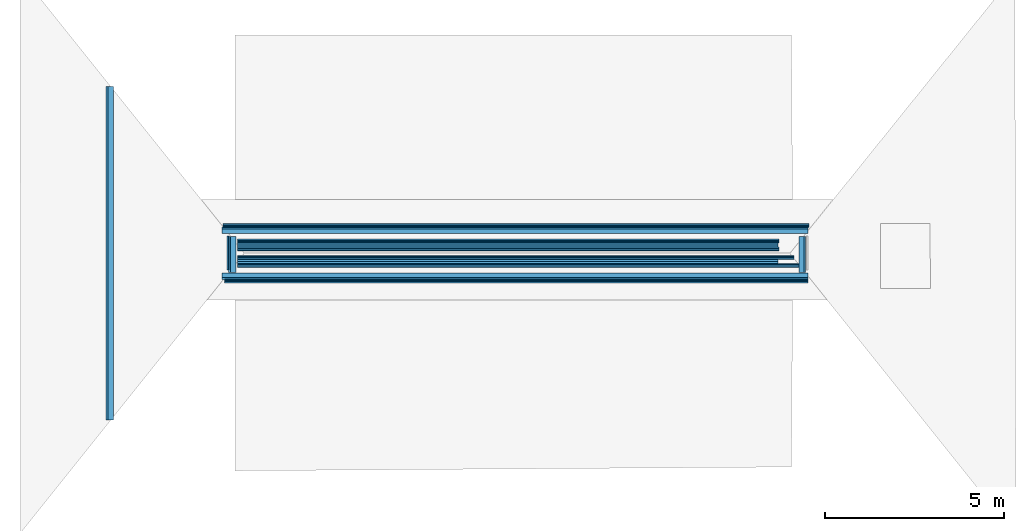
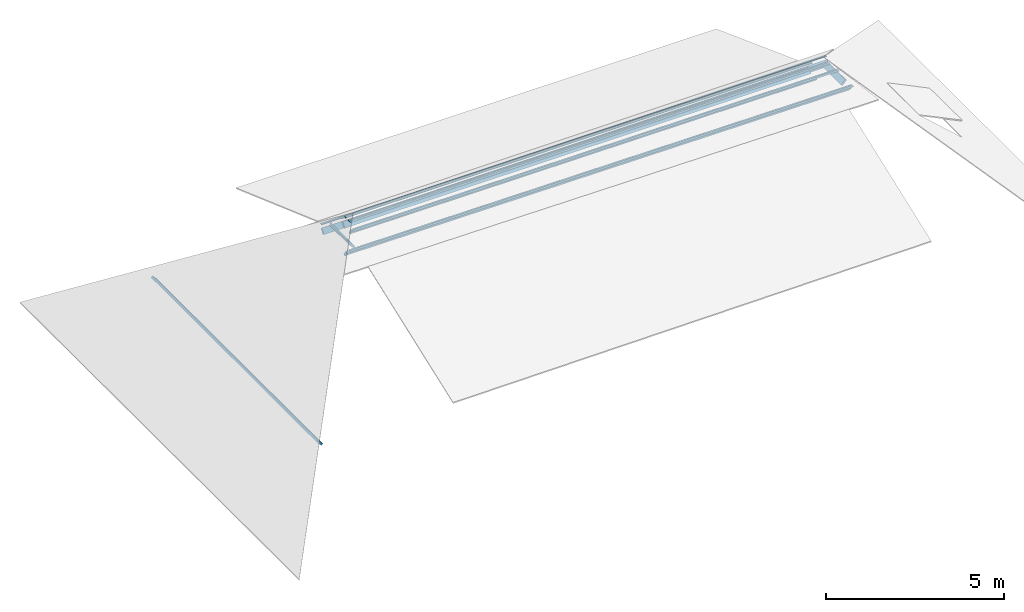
# One storey, part 1 of 3: 14 beams.
"""IFC2X3 building model written with IfcOpenShell, lengths in centimetres."""

from ifc_helpers import new_model, entity, si_unit, converted_unit, direction, frame, frame_2d, origin, place, context, subcontext, project, spatial, polyline, circle_curve, parameter, trimmed, segment, composite_curve, rectangle, outline, extrude, material, type_object, element, save


model = new_model("IFC2X3")

# Units and contexts
model_context = context("Model", 3, precision=0.001, world=frame((0.0, 0.0, 13090.0)), true_north=direction((6.123233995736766e-17, 1.0)))
body_context = subcontext(model_context, "Body", "Model", "MODEL_VIEW")
ifc_project = project(units=[si_unit("LENGTHUNIT", "METRE", prefix="CENTI"), si_unit("AREAUNIT", "SQUARE_METRE"), si_unit("VOLUMEUNIT", "CUBIC_METRE"), converted_unit("PLANEANGLEUNIT", "DEGREE", entity("IfcPlaneAngleMeasure", 0.017453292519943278), si_unit("PLANEANGLEUNIT", "RADIAN"), dimensions=[0, 0, 0, 0, 0, 0, 0])], contexts=[model_context])

# Site, building, storey
site_placement = place(None, origin())
site = spatial("IfcSite", under=ifc_project, at=site_placement, Name="Default", CompositionType="ELEMENT")
building_placement = place(site_placement, origin())
building = spatial("IfcBuilding", under=site, at=building_placement, Name="e 39 logements et 22 maisons relais", CompositionType="ELEMENT")
storey_placement = place(building_placement, frame((0.0, 0.0, 825.0)))
storey = spatial("IfcBuildingStorey", under=building, at=storey_placement, Name="faîtage", CompositionType="ELEMENT", Elevation=825.0000000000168)

# Beams
ifc_material_1 = material(Name="Bois - Bois de construction de dimensions courantes")
beam_type_1 = type_object("IfcBeamType", Name="Poutre - Bois de construction de dimensions courantes:70 220", PredefinedType="BEAM")
beam_1_placement = place(storey_placement, frame((-1286.0797488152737, 514.0076677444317, -289.40547137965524), z_axis=(0.0, 0.0, 1.0), x_axis=(0.0, -1.0, 0.0)))
element("IfcBeam", 1, at=beam_1_placement, inside=storey, type_object=beam_type_1, material=ifc_material_1, Name="Poutre - Bois de construction de dimensions courantes:70 220", ObjectType="Poutre - Bois de construction de dimensions courantes:70 220", context=body_context, shape_type="SweptSolid", body=[
    extrude(rectangle(XDim=22.00000000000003, YDim=7.0000000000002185, at=frame_2d((7.283063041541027e-14, 8.038014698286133e-14), x_axis=(1.0, 0.0))), frame((71.63057672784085, 7.360436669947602, -8.17459308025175), z_axis=(1.0, 0.0, 0.0), x_axis=(0.0, -0.6691306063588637, 0.7431448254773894)), (0.0, 0.0, 1.0), 929.7273318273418),
])
beam_2_placement = place(storey_placement, frame((-944.5009760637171, 514.0076677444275, 16.866062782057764), z_axis=(0.0, 0.0, 1.0), x_axis=(0.0, -1.0, 0.0)))
element("IfcBeam", 2, at=beam_2_placement, inside=storey, type_object=beam_type_1, material=ifc_material_1, Name="Poutre - Bois de construction de dimensions courantes:70 220", ObjectType="Poutre - Bois de construction de dimensions courantes:70 220", context=body_context, shape_type="SweptSolid", body=[
    extrude(rectangle(XDim=21.99999999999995, YDim=7.000000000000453, at=frame_2d((-3.9968028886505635e-14, 3.597122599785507e-14), x_axis=(1.0, 0.0))), frame((489.2494568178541, 7.360436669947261, -8.174593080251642), z_axis=(1.0, 0.0, 0.0), x_axis=(0.0, -0.6691306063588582, 0.7431448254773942)), (0.0, 0.0, 1.0), 101.39577364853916),
])
beam_type_2 = type_object("IfcBeamType", Name="Poutre - Bois de construction de dimensions courantes:70 200", PredefinedType="BEAM")
beam_3_placement = place(storey_placement, frame((-470.7039440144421, 47.67029761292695, 5.550000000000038), z_axis=(-0.0026516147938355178, 0.0, 0.9999964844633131), x_axis=(-0.9999964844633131, 0.0, -0.0026516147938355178)))
element("IfcBeam", 3, at=beam_3_placement, inside=storey, type_object=beam_type_2, material=ifc_material_1, Name="Poutre - Bois de construction de dimensions courantes:70 200", ObjectType="Poutre - Bois de construction de dimensions courantes:70 200", context=body_context, shape_type="SweptSolid", body=[
    extrude(rectangle(XDim=20.00000000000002, YDim=7.000000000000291, at=frame_2d((-4.440892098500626e-14, 3.175237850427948e-14), x_axis=(1.0, 0.0))), frame((-1140.6896584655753, 6.230523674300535, -8.57558014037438), z_axis=(1.0, 0.0, 0.0), x_axis=(0.0, -0.5877852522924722, 0.8090169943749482)), (0.0, 0.0, 1.0), 1635.3712709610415),
])
beam_4_placement = place(storey_placement, frame((-470.7039440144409, 3.2041599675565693, 37.97000000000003), z_axis=(-0.00037451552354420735, 0.0, 0.999999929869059), x_axis=(-0.999999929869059, 0.0, -0.00037451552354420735)))
element("IfcBeam", 4, at=beam_4_placement, inside=storey, type_object=beam_type_2, material=ifc_material_1, Name="Poutre - Bois de construction de dimensions courantes:70 200", ObjectType="Poutre - Bois de construction de dimensions courantes:70 200", context=body_context, shape_type="SweptSolid", body=[
    extrude(rectangle(XDim=19.999999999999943, YDim=7.000000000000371, at=frame_2d((4.529709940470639e-14, -3.1530333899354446e-14), x_axis=(1.0, 0.0))), frame((-1056.3940368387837, 5.877852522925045, -8.090169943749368), z_axis=(1.0, 0.0, 0.0), x_axis=(0.0, -0.5877852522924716, 0.8090169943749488)), (0.0, 0.0, 1.0), 1508.7195752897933),
])
beam_5_placement = place(storey_placement, frame((-470.70394401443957, -94.49332730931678, 6.79999999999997), z_axis=(0.002475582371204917, 0.0, 0.9999969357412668), x_axis=(-0.9999969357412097, -3.379716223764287e-07, 0.0024755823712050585)))
element("IfcBeam", 5, at=beam_5_placement, inside=storey, type_object=beam_type_2, material=ifc_material_1, Name="Poutre - Bois de construction de dimensions courantes:70 200", ObjectType="Poutre - Bois de construction de dimensions courantes:70 200", context=body_context, shape_type="SweptSolid", body=[
    extrude(rectangle(XDim=19.99999999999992, YDim=7.0000000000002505, at=frame_2d((3.774758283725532e-14, -3.9968028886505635e-14), x_axis=(0.0, 1.0))), frame((-1140.6870016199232, -8.030107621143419, -10.852067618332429), z_axis=(1.0, 0.0, 0.0), x_axis=(0.0, -0.8038568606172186, 0.5948227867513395)), (0.0, 0.0, 1.0), 1635.3685641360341),
])
beam_6_placement = place(storey_placement, frame((-470.70394401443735, -47.83352855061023, 37.54000000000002), z_axis=(0.0008724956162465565, 0.0, 0.9999996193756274), x_axis=(-0.9999996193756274, 0.0, 0.0008724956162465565)))
element("IfcBeam", 6, at=beam_6_placement, inside=storey, type_object=beam_type_2, material=ifc_material_1, Name="Poutre - Bois de construction de dimensions courantes:70 200", ObjectType="Poutre - Bois de construction de dimensions courantes:70 200", context=body_context, shape_type="SweptSolid", body=[
    extrude(rectangle(XDim=20.000000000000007, YDim=7.000000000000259, at=frame_2d((2.930988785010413e-14, -4.618527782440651e-14), x_axis=(0.0, 1.0))), frame((-1056.3940024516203, -5.877852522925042, -8.090169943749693), z_axis=(1.0, 0.0, 0.0), x_axis=(0.0, -0.8090169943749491, 0.5877852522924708)), (0.0, 0.0, 1.0), 1508.7195752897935),
])
beam_7_placement = place(storey_placement, frame((660.5394430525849, 514.0076677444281, 16.862015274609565), z_axis=(0.0, 0.0, 1.0), x_axis=(0.0, -1.0, 0.0)))
element("IfcBeam", 7, at=beam_7_placement, inside=storey, type_object=beam_type_2, material=ifc_material_1, Name="Poutre - Bois de construction de dimensions courantes:70 200", ObjectType="Poutre - Bois de construction de dimensions courantes:70 200", context=body_context, shape_type="SweptSolid", body=[
    extrude(rectangle(XDim=19.99999999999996, YDim=7.00000000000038, at=frame_2d((-6.861178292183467e-14, 1.5720758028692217e-13), x_axis=(0.0, 1.0))), frame((489.2494568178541, -6.691306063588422, -7.4314482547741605), z_axis=(1.0, 0.0, 0.0), x_axis=(0.0, -0.7431448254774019, 0.6691306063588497)), (0.0, 0.0, 1.0), 101.39577364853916),
])
ifc_material_2 = material(Name="neuf")
beam_type_3 = type_object("IfcBeamType", Name="panne z:panne z", PredefinedType="BEAM")
beam_8_placement = place(storey_placement, frame((-570.9302602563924, 56.96715256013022, 15.195050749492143), z_axis=(-0.0022573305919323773, 0.0, 0.9999974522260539), x_axis=(-0.9999974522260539, 0.0, -0.0022573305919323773)))
element("IfcBeam", 8, at=beam_8_placement, inside=storey, type_object=beam_type_3, material=ifc_material_2, Name="panne z:panne z", ObjectType="panne z:panne z", context=body_context, shape_type="SweptSolid", body=[
    extrude(outline(composite_curve([segment(trimmed(circle_curve(frame_2d((-0.3000000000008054, 2.6000000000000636), x_axis=(1.0, 0.0)), 0.3999999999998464), [parameter(0.0)], [parameter(90.0000000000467)], True, "PARAMETER"), True, "CONTINUOUS"), segment(polyline([(-0.3000000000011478, 3.0), (-4.600000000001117, 3.0)]), True, "CONTINUOUS"), segment(trimmed(circle_curve(frame_2d((-4.600000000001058, 2.5999999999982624), x_axis=(0.0, 1.0)), 0.3999999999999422), [parameter(0.0)], [parameter(90.00000000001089)], True, "PARAMETER"), True, "CONTINUOUS"), segment(polyline([(-5.0, 2.599999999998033), (-5.0, 1.0)]), True, "CONTINUOUS"), segment(polyline([(-5.0, 1.0), (-4.800000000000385, 1.0)]), True, "CONTINUOUS"), segment(polyline([(-4.800000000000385, 1.0), (-4.800000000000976, 2.599999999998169)]), True, "CONTINUOUS"), segment(trimmed(circle_curve(frame_2d((-4.600000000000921, 2.599999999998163), x_axis=(-1.0, 0.0)), 0.20000000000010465), [parameter(270.00000000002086)], [parameter(0.0)], True, "PARAMETER"), False, "CONTINUOUS"), segment(polyline([(-4.600000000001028, 2.799999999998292), (-0.3000000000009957, 2.7999999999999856)]), True, "CONTINUOUS"), segment(trimmed(circle_curve(frame_2d((-0.3000000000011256, 2.599999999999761), x_axis=(0.0, 1.0)), 0.2000000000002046), [parameter(270.0000000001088)], [parameter(0.0)], True, "PARAMETER"), False, "CONTINUOUS"), segment(polyline([(-0.1000000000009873, 2.5999999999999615), (-0.09999999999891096, -2.599999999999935)]), True, "CONTINUOUS"), segment(trimmed(circle_curve(frame_2d((0.3000000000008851, -2.599999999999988), x_axis=(-1.0, 0.0)), 0.399999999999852), [parameter(0.0)], [parameter(90.00000000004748)], True, "PARAMETER"), True, "CONTINUOUS"), segment(polyline([(0.30000000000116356, -3.0), (4.600000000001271, -3.0)]), True, "CONTINUOUS"), segment(trimmed(circle_curve(frame_2d((4.600000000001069, -2.5999999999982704), x_axis=(0.0, -1.0)), 0.3999999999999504), [parameter(0.0)], [parameter(90.0000000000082)], True, "PARAMETER"), True, "CONTINUOUS"), segment(polyline([(5.0, -2.5999999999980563), (5.0, -1.0)]), True, "CONTINUOUS"), segment(polyline([(5.0, -1.0), (4.800000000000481, -1.0)]), True, "CONTINUOUS"), segment(polyline([(4.800000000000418, -1.0), (4.800000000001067, -2.5999999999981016)]), True, "CONTINUOUS"), segment(trimmed(circle_curve(frame_2d((4.600000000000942, -2.5999999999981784), x_axis=(1.0, 0.0)), 0.2000000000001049), [parameter(270.0000000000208)], [parameter(0.0)], True, "PARAMETER"), False, "CONTINUOUS"), segment(polyline([(4.600000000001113, -2.79999999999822), (0.3000000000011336, -2.799999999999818)]), True, "CONTINUOUS"), segment(trimmed(circle_curve(frame_2d((0.3000000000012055, -2.5999999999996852), x_axis=(0.0, -1.0)), 0.20000000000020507), [parameter(270.0000000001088)], [parameter(0.0)], True, "PARAMETER"), False, "CONTINUOUS"), segment(polyline([(0.10000000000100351, -2.5999999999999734), (0.09999999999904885, 2.6000000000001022)]), True, "CONTINUOUS")], self_intersect=False)), frame((-1243.6018902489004, 2.1644803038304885, -2.979151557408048), z_axis=(1.0, 0.0, 0.0), x_axis=(0.0, 0.8090169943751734, 0.5877852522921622)), (0.0, 0.0, 1.0), 1635.4388450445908),
])
beam_9_placement = place(storey_placement, frame((-570.9302602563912, 12.911788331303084, 46.62000000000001), z_axis=(-0.0005828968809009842, 0.0, 0.9999998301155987), x_axis=(-0.9999998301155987, 0.0, -0.0005828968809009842)))
element("IfcBeam", 9, at=beam_9_placement, inside=storey, type_object=beam_type_3, material=ifc_material_2, Name="panne z:panne z", ObjectType="panne z:panne z", context=body_context, shape_type="SweptSolid", body=[
    extrude(outline(composite_curve([segment(trimmed(circle_curve(frame_2d((-0.2999999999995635, 2.6000000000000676), x_axis=(1.0, 0.0)), 0.3999999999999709), [parameter(0.0)], [parameter(89.99999999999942)], True, "PARAMETER"), True, "CONTINUOUS"), segment(polyline([(-0.29999999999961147, 3.0), (-4.599999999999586, 3.0)]), True, "CONTINUOUS"), segment(trimmed(circle_curve(frame_2d((-4.599999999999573, 2.6000000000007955), x_axis=(0.0, 1.0)), 0.39999999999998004), [parameter(0.0)], [parameter(90.00000000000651)], True, "PARAMETER"), True, "CONTINUOUS"), segment(polyline([(-5.0, 2.6000000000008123), (-5.0, 1.0)]), True, "CONTINUOUS"), segment(polyline([(-5.0, 1.0), (-4.799999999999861, 1.0)]), True, "CONTINUOUS"), segment(polyline([(-4.799999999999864, 1.0), (-4.799999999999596, 2.600000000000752)]), True, "CONTINUOUS"), segment(trimmed(circle_curve(frame_2d((-4.599999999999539, 2.6000000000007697), x_axis=(-1.0, 0.0)), 0.2000000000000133), [parameter(270.00000000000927)], [parameter(0.0)], True, "PARAMETER"), False, "CONTINUOUS"), segment(polyline([(-4.599999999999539, 2.8000000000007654), (-0.29999999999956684, 2.800000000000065)]), True, "CONTINUOUS"), segment(trimmed(circle_curve(frame_2d((-0.2999999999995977, 2.6000000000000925), x_axis=(0.0, 1.0)), 0.2000000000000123), [parameter(269.99999999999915)], [parameter(0.0)], True, "PARAMETER"), False, "CONTINUOUS"), segment(polyline([(-0.09999999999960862, 2.6000000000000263), (-0.10000000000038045, -2.5999999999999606)]), True, "CONTINUOUS"), segment(trimmed(circle_curve(frame_2d((0.2999999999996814, -2.599999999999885), x_axis=(-1.0, 0.0)), 0.3999999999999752), [parameter(0.0)], [parameter(89.9999999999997)], True, "PARAMETER"), True, "CONTINUOUS"), segment(polyline([(0.29999999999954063, -3.0), (4.59999999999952, -3.0)]), True, "CONTINUOUS"), segment(trimmed(circle_curve(frame_2d((4.59999999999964, -2.6000000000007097), x_axis=(0.0, -1.0)), 0.3999999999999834), [parameter(0.0)], [parameter(90.00000000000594)], True, "PARAMETER"), True, "CONTINUOUS"), segment(polyline([(5.0, -2.600000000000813), (5.0, -1.0)]), True, "CONTINUOUS"), segment(polyline([(5.0, -1.0), (4.799999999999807, -1.0)]), True, "CONTINUOUS"), segment(polyline([(4.799999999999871, -1.0), (4.799999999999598, -2.6000000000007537)]), True, "CONTINUOUS"), segment(trimmed(circle_curve(frame_2d((4.5999999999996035, -2.6000000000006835), x_axis=(1.0, 0.0)), 0.20000000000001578), [parameter(270.00000000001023)], [parameter(0.0)], True, "PARAMETER"), False, "CONTINUOUS"), segment(polyline([(4.599999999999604, -2.8000000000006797), (0.2999999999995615, -2.800000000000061)]), True, "CONTINUOUS"), segment(trimmed(circle_curve(frame_2d((0.2999999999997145, -2.599999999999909), x_axis=(0.0, -1.0)), 0.20000000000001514), [parameter(269.99999999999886)], [parameter(0.0)], True, "PARAMETER"), False, "CONTINUOUS"), segment(polyline([(0.09999999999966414, -2.599999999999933), (0.1000000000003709, 2.5999999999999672)]), True, "CONTINUOUS")], self_intersect=False)), frame((-1159.7812856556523, 1.5766950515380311, -2.1701345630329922), z_axis=(1.0, 0.0, 0.0), x_axis=(0.0, 0.8090169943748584, 0.5877852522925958)), (0.0, 0.0, 1.0), 1511.8805377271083),
])
beam_10_placement = place(storey_placement, frame((-570.9302602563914, -57.84239392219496, 46.0), z_axis=(0.0009029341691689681, 0.0, 0.99999959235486), x_axis=(-0.99999959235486, 0.0, 0.0009029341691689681)))
element("IfcBeam", 10, at=beam_10_placement, inside=storey, type_object=beam_type_3, material=ifc_material_2, Name="panne z:panne z", ObjectType="panne z:panne z", context=body_context, shape_type="SweptSolid", body=[
    extrude(outline(composite_curve([segment(polyline([(-4.599999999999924, -3.0), (-0.2999999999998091, -3.0)]), True, "CONTINUOUS"), segment(trimmed(circle_curve(frame_2d((-0.2999999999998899, -2.600000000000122), x_axis=(0.0, -1.0)), 0.39999999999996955), [parameter(0.0)], [parameter(89.99999999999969)], True, "PARAMETER"), True, "CONTINUOUS"), segment(polyline([(0.10000000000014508, -2.6000000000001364), (0.1000000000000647, 2.599999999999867)]), True, "CONTINUOUS"), segment(trimmed(circle_curve(frame_2d((0.30000000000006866, 2.599999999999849), x_axis=(-1.0, 0.0)), 0.20000000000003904), [parameter(270.00000000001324)], [parameter(0.0)], True, "PARAMETER"), False, "CONTINUOUS"), segment(polyline([(0.3000000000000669, 2.7999999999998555), (4.600000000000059, 2.7999999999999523)]), True, "CONTINUOUS"), segment(trimmed(circle_curve(frame_2d((4.599999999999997, 2.599999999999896), x_axis=(0.0, 1.0)), 0.20000000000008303), [parameter(270.00000000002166)], [parameter(0.0)], True, "PARAMETER"), False, "CONTINUOUS"), segment(polyline([(4.800000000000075, 2.599999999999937), (4.8000000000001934, 1.0)]), True, "CONTINUOUS"), segment(polyline([(4.8000000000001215, 1.0), (5.0, 1.0)]), True, "CONTINUOUS"), segment(polyline([(5.0, 1.0), (5.0, 2.5999999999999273)]), True, "CONTINUOUS"), segment(trimmed(circle_curve(frame_2d((4.600000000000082, 2.5999999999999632), x_axis=(1.0, 0.0)), 0.39999999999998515), [parameter(0.0)], [parameter(90.00000000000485)], True, "PARAMETER"), True, "CONTINUOUS"), segment(polyline([(4.599999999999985, 3.0), (0.29999999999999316, 3.0)]), True, "CONTINUOUS"), segment(trimmed(circle_curve(frame_2d((0.30000000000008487, 2.5999999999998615), x_axis=(0.0, 1.0)), 0.39999999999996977), [parameter(0.0)], [parameter(89.99999999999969)], True, "PARAMETER"), True, "CONTINUOUS"), segment(polyline([(-0.0999999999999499, 2.599999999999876), (-0.09999999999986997, -2.6000000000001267)]), True, "CONTINUOUS"), segment(trimmed(circle_curve(frame_2d((-0.29999999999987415, -2.60000000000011), x_axis=(1.0, 0.0)), 0.20000000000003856), [parameter(270.00000000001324)], [parameter(0.0)], True, "PARAMETER"), False, "CONTINUOUS"), segment(polyline([(-0.299999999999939, -2.8000000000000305), (-4.599999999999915, -2.8000000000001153)]), True, "CONTINUOUS"), segment(trimmed(circle_curve(frame_2d((-4.5999999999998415, -2.6000000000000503), x_axis=(0.0, -1.0)), 0.2000000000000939), [parameter(270.0000000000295)], [parameter(0.0)], True, "PARAMETER"), False, "CONTINUOUS"), segment(polyline([(-4.799999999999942, -2.6000000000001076), (-4.799999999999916, -1.0)]), True, "CONTINUOUS"), segment(polyline([(-4.799999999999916, -1.0), (-5.0, -1.0)]), True, "CONTINUOUS"), segment(polyline([(-5.0, -1.0), (-5.0, -2.6000000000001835)]), True, "CONTINUOUS"), segment(trimmed(circle_curve(frame_2d((-4.599999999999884, -2.600000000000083), x_axis=(-1.0, 0.0)), 0.4000000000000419), [parameter(0.0)], [parameter(89.99999999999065)], True, "PARAMETER"), True, "CONTINUOUS")], self_intersect=False)), frame((-1219.0167782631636, -1.5899050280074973, -2.034985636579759), z_axis=(1.0, 0.0, 0.0), x_axis=(0.0, -0.7880107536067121, 0.615661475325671)), (0.0, 0.0, 1.0), 1571.1160829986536),
])
beam_11_placement = place(storey_placement, frame((-570.930260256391, -101.46059333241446, 13.386028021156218), z_axis=(0.002546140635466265, -1.405130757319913e-08, 0.9999967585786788), x_axis=(-0.9999967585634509, 5.518651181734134e-06, 0.002546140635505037)))
element("IfcBeam", 11, at=beam_11_placement, inside=storey, type_object=beam_type_3, material=ifc_material_2, Name="panne z:panne z", ObjectType="panne z:panne z", context=body_context, shape_type="SweptSolid", body=[
    extrude(outline(composite_curve([segment(polyline([(-4.599999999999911, -3.0), (-0.2999999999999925, -3.0)]), True, "CONTINUOUS"), segment(trimmed(circle_curve(frame_2d((-0.30000000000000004, -2.600000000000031), x_axis=(0.0, -1.0)), 0.4000000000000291), [parameter(0.0)], [parameter(89.99999999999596)], True, "PARAMETER"), True, "CONTINUOUS"), segment(polyline([(0.10000000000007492, -2.6000000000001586), (0.10000000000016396, 2.5999999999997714)]), True, "CONTINUOUS"), segment(trimmed(circle_curve(frame_2d((0.2999999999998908, 2.600000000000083), x_axis=(-1.0, 0.0)), 0.1999999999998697), [parameter(269.99999999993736)], [parameter(0.0)], True, "PARAMETER"), False, "CONTINUOUS"), segment(polyline([(0.2999999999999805, 2.800000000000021), (4.600000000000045, 2.7999999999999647)]), True, "CONTINUOUS"), segment(trimmed(circle_curve(frame_2d((4.6000000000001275, 2.600000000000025), x_axis=(0.0, 1.0)), 0.19999999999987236), [parameter(269.9999999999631)], [parameter(0.0)], True, "PARAMETER"), False, "CONTINUOUS"), segment(polyline([(4.800000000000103, 2.5999999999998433), (4.800000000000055, 1.0)]), True, "CONTINUOUS"), segment(polyline([(4.8000000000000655, 1.0), (5.0, 1.0)]), True, "CONTINUOUS"), segment(polyline([(5.0, 1.0), (5.0, 2.5999999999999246)]), True, "CONTINUOUS"), segment(trimmed(circle_curve(frame_2d((4.599999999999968, 2.5999999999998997), x_axis=(1.0, 0.0)), 0.4000000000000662), [parameter(0.0)], [parameter(89.99999999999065)], True, "PARAMETER"), True, "CONTINUOUS"), segment(polyline([(4.600000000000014, 3.0), (0.30000000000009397, 3.0)]), True, "CONTINUOUS"), segment(trimmed(circle_curve(frame_2d((0.29999999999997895, 2.6000000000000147), x_axis=(0.0, 1.0)), 0.40000000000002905), [parameter(0.0)], [parameter(89.99999999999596)], True, "PARAMETER"), True, "CONTINUOUS"), segment(polyline([(-0.09999999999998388, 2.5999999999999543), (-0.09999999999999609, -2.600000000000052)]), True, "CONTINUOUS"), segment(trimmed(circle_curve(frame_2d((-0.2999999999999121, -2.6000000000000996), x_axis=(1.0, 0.0)), 0.1999999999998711), [parameter(269.99999999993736)], [parameter(0.0)], True, "PARAMETER"), False, "CONTINUOUS"), segment(polyline([(-0.299999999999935, -2.800000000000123), (-4.599999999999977, -2.80000000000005)]), True, "CONTINUOUS"), segment(trimmed(circle_curve(frame_2d((-4.600000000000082, -2.6000000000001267), x_axis=(0.0, -1.0)), 0.19999999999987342), [parameter(269.9999999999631)], [parameter(0.0)], True, "PARAMETER"), False, "CONTINUOUS"), segment(polyline([(-4.799999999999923, -2.600000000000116), (-4.799999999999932, -1.0)]), True, "CONTINUOUS"), segment(polyline([(-4.799999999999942, -1.0), (-5.0, -1.0)]), True, "CONTINUOUS"), segment(polyline([(-5.0, -1.0), (-5.0, -2.6000000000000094)]), True, "CONTINUOUS"), segment(trimmed(circle_curve(frame_2d((-4.599999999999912, -2.5999999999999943), x_axis=(-1.0, 0.0)), 0.4000000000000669), [parameter(0.0)], [parameter(89.99999999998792)], True, "PARAMETER"), True, "CONTINUOUS")], self_intersect=False)), frame((-1240.2738603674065, -1.5899050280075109, -2.034985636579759), z_axis=(1.0, 0.0, 0.0), x_axis=(0.0, -0.7880107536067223, 0.6156614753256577)), (0.0, 0.0, 1.0), 1628.136809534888),
])
beam_12_placement = place(storey_placement, frame((-961.8290796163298, 514.0076677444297, 39.69761516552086), z_axis=(0.0, 0.0, 1.0), x_axis=(0.0, -1.0, 0.0)))
element("IfcBeam", 12, at=beam_12_placement, inside=storey, type_object=beam_type_3, material=ifc_material_2, Name="panne z:panne z", ObjectType="panne z:panne z", context=body_context, shape_type="SweptSolid", body=[
    extrude(outline(composite_curve([segment(trimmed(circle_curve(frame_2d((4.599999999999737, 2.600000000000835), x_axis=(1.0, 0.0)), 0.399999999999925), [parameter(0.0)], [parameter(90.000000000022)], True, "PARAMETER"), True, "CONTINUOUS"), segment(polyline([(4.599999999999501, 3.0), (0.2999999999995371, 3.0)]), True, "CONTINUOUS"), segment(trimmed(circle_curve(frame_2d((0.29999999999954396, 2.5999999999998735), x_axis=(0.0, 1.0)), 0.399999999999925), [parameter(0.0)], [parameter(90.000000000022)], True, "PARAMETER"), True, "CONTINUOUS"), segment(polyline([(-0.10000000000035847, 2.5999999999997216), (-0.09999999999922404, -2.6000000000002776)]), True, "CONTINUOUS"), segment(trimmed(circle_curve(frame_2d((-0.2999999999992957, -2.6000000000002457), x_axis=(1.0, 0.0)), 0.2000000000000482), [parameter(270.0000000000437)], [parameter(0.0)], True, "PARAMETER"), False, "CONTINUOUS"), segment(polyline([(-0.29999999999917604, -2.8000000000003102), (-4.599999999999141, -2.800000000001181)]), True, "CONTINUOUS"), segment(trimmed(circle_curve(frame_2d((-4.5999999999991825, -2.6000000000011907), x_axis=(0.0, -1.0)), 0.20000000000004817), [parameter(270.0000000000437)], [parameter(0.0)], True, "PARAMETER"), False, "CONTINUOUS"), segment(polyline([(-4.799999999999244, -2.6000000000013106), (-4.799999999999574, -1.0)]), True, "CONTINUOUS"), segment(polyline([(-4.799999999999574, -1.0), (-5.0, -1.0)]), True, "CONTINUOUS"), segment(polyline([(-5.0, -1.0), (-5.0, -2.600000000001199)]), True, "CONTINUOUS"), segment(trimmed(circle_curve(frame_2d((-4.599999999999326, -2.6000000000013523), x_axis=(-1.0, 0.0)), 0.399999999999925), [parameter(0.0)], [parameter(90.000000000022)], True, "PARAMETER"), True, "CONTINUOUS"), segment(polyline([(-4.599999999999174, -3.0), (-0.2999999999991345, -3.0)]), True, "CONTINUOUS"), segment(trimmed(circle_curve(frame_2d((-0.2999999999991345, -2.6000000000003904), x_axis=(0.0, -1.0)), 0.399999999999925), [parameter(0.0)], [parameter(90.000000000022)], True, "PARAMETER"), True, "CONTINUOUS"), segment(polyline([(0.10000000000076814, -2.6000000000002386), (0.0999999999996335, 2.5999999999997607)]), True, "CONTINUOUS"), segment(trimmed(circle_curve(frame_2d((0.29999999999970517, 2.5999999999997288), x_axis=(-1.0, 0.0)), 0.2000000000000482), [parameter(270.0000000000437)], [parameter(0.0)], True, "PARAMETER"), False, "CONTINUOUS"), segment(polyline([(0.2999999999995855, 2.7999999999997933), (4.599999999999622, 2.800000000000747)]), True, "CONTINUOUS"), segment(trimmed(circle_curve(frame_2d((4.599999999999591, 2.600000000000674), x_axis=(0.0, 1.0)), 0.20000000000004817), [parameter(270.0000000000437)], [parameter(0.0)], True, "PARAMETER"), False, "CONTINUOUS"), segment(polyline([(4.799999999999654, 2.6000000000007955), (4.799999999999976, 1.0)]), True, "CONTINUOUS"), segment(polyline([(4.799999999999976, 1.0), (5.0, 1.0)]), True, "CONTINUOUS"), segment(polyline([(5.0, 1.0), (5.0, 2.6000000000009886)]), True, "CONTINUOUS")], self_intersect=False)), frame((488.396690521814, 12.500988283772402, -13.883754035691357), z_axis=(1.0, 0.0, 0.0), x_axis=(0.0, 0.7431448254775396, 0.6691306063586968)), (0.0, 0.0, 1.0), 94.43361090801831),
])
beam_13_placement = place(storey_placement, frame((-570.9302602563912, -9.57888411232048, 62.96043001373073), z_axis=(-0.0005828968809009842, 0.0, 0.9999998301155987), x_axis=(-0.9999998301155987, 0.0, -0.0005828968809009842)))
element("IfcBeam", 13, at=beam_13_placement, inside=storey, type_object=beam_type_3, material=ifc_material_2, Name="panne z:panne z", ObjectType="panne z:panne z", context=body_context, shape_type="SweptSolid", body=[
    extrude(outline(composite_curve([segment(trimmed(circle_curve(frame_2d((-0.2999999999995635, 2.6000000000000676), x_axis=(1.0, 0.0)), 0.3999999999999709), [parameter(0.0)], [parameter(89.99999999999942)], True, "PARAMETER"), True, "CONTINUOUS"), segment(polyline([(-0.29999999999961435, 3.0), (-4.599999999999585, 3.0)]), True, "CONTINUOUS"), segment(trimmed(circle_curve(frame_2d((-4.599999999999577, 2.6000000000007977), x_axis=(0.0, 1.0)), 0.39999999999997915), [parameter(0.0)], [parameter(90.00000000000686)], True, "PARAMETER"), True, "CONTINUOUS"), segment(polyline([(-5.0, 2.6000000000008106), (-5.0, 1.0)]), True, "CONTINUOUS"), segment(polyline([(-5.0, 1.0), (-4.799999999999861, 1.0)]), True, "CONTINUOUS"), segment(polyline([(-4.799999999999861, 1.0), (-4.799999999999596, 2.600000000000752)]), True, "CONTINUOUS"), segment(trimmed(circle_curve(frame_2d((-4.599999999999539, 2.6000000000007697), x_axis=(-1.0, 0.0)), 0.20000000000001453), [parameter(270.00000000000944)], [parameter(0.0)], True, "PARAMETER"), False, "CONTINUOUS"), segment(polyline([(-4.599999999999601, 2.8000000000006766), (-0.2999999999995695, 2.8000000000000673)]), True, "CONTINUOUS"), segment(trimmed(circle_curve(frame_2d((-0.2999999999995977, 2.6000000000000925), x_axis=(0.0, 1.0)), 0.2000000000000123), [parameter(269.99999999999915)], [parameter(0.0)], True, "PARAMETER"), False, "CONTINUOUS"), segment(polyline([(-0.09999999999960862, 2.6000000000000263), (-0.10000000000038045, -2.5999999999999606)]), True, "CONTINUOUS"), segment(trimmed(circle_curve(frame_2d((0.2999999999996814, -2.599999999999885), x_axis=(-1.0, 0.0)), 0.39999999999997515), [parameter(0.0)], [parameter(89.9999999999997)], True, "PARAMETER"), True, "CONTINUOUS"), segment(polyline([(0.2999999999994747, -3.0), (4.59999999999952, -3.0)]), True, "CONTINUOUS"), segment(trimmed(circle_curve(frame_2d((4.599999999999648, -2.600000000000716), x_axis=(0.0, -1.0)), 0.39999999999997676), [parameter(0.0)], [parameter(90.00000000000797)], True, "PARAMETER"), True, "CONTINUOUS"), segment(polyline([(5.0, -2.600000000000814), (5.0, -1.0)]), True, "CONTINUOUS"), segment(polyline([(5.0, -1.0), (4.799999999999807, -1.0)]), True, "CONTINUOUS"), segment(polyline([(4.799999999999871, -1.0), (4.799999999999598, -2.6000000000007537)]), True, "CONTINUOUS"), segment(trimmed(circle_curve(frame_2d((4.59999999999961, -2.6000000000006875), x_axis=(1.0, 0.0)), 0.2000000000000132), [parameter(270.0000000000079)], [parameter(0.0)], True, "PARAMETER"), False, "CONTINUOUS"), segment(polyline([(4.5999999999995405, -2.800000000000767), (0.29999999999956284, -2.800000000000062)]), True, "CONTINUOUS"), segment(trimmed(circle_curve(frame_2d((0.2999999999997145, -2.599999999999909), x_axis=(0.0, -1.0)), 0.20000000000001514), [parameter(269.99999999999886)], [parameter(0.0)], True, "PARAMETER"), False, "CONTINUOUS"), segment(polyline([(0.09999999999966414, -2.599999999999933), (0.1000000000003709, 2.5999999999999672)]), True, "CONTINUOUS")], self_intersect=False)), frame((-1159.781285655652, 1.5766950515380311, -2.170134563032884), z_axis=(1.0, 0.0, 0.0), x_axis=(0.0, 0.8090169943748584, 0.5877852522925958)), (0.0, 0.0, 1.0), 1511.8805377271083),
])
beam_14_placement = place(storey_placement, frame((-570.9302602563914, -35.85954643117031, 62.83601202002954), z_axis=(0.0009029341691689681, 0.0, 0.99999959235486), x_axis=(-0.99999959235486, 0.0, 0.0009029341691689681)))
element("IfcBeam", 14, at=beam_14_placement, inside=storey, type_object=beam_type_3, material=ifc_material_2, Name="panne z:panne z", ObjectType="panne z:panne z", context=body_context, shape_type="SweptSolid", body=[
    extrude(outline(composite_curve([segment(polyline([(-4.600000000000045, -3.0), (-0.30000000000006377, -3.0)]), True, "CONTINUOUS"), segment(trimmed(circle_curve(frame_2d((-0.2999999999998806, -2.600000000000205), x_axis=(0.0, -1.0)), 0.3999999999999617), [parameter(0.0)], [parameter(90.0000000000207)], True, "PARAMETER"), True, "CONTINUOUS"), segment(polyline([(0.10000000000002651, -2.600000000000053), (0.1000000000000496, 2.59999999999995)]), True, "CONTINUOUS"), segment(trimmed(circle_curve(frame_2d((0.29999999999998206, 2.6000000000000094), x_axis=(-1.0, 0.0)), 0.20000000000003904), [parameter(270.00000000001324)], [parameter(0.0)], True, "PARAMETER"), False, "CONTINUOUS"), segment(polyline([(0.300000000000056, 2.7999999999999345), (4.6000000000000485, 2.79999999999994)]), True, "CONTINUOUS"), segment(trimmed(circle_curve(frame_2d((4.599999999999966, 2.5999999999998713), x_axis=(0.0, 1.0)), 0.20000000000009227), [parameter(270.0000000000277)], [parameter(0.0)], True, "PARAMETER"), False, "CONTINUOUS"), segment(polyline([(4.800000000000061, 2.5999999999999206), (4.800000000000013, 1.0)]), True, "CONTINUOUS"), segment(polyline([(4.800000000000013, 1.0), (5.0, 1.0)]), True, "CONTINUOUS"), segment(polyline([(5.0, 1.0), (5.0, 2.6000000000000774)]), True, "CONTINUOUS"), segment(trimmed(circle_curve(frame_2d((4.600000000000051, 2.599999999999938), x_axis=(1.0, 0.0)), 0.39999999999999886), [parameter(0.0)], [parameter(90.00000000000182)], True, "PARAMETER"), True, "CONTINUOUS"), segment(polyline([(4.600000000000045, 3.0), (0.2999999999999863, 3.0)]), True, "CONTINUOUS"), segment(trimmed(circle_curve(frame_2d((0.29999999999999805, 2.600000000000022), x_axis=(0.0, 1.0)), 0.39999999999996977), [parameter(0.0)], [parameter(89.99999999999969)], True, "PARAMETER"), True, "CONTINUOUS"), segment(polyline([(-0.099999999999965, 2.5999999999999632), (-0.10000000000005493, -2.599999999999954)]), True, "CONTINUOUS"), segment(trimmed(circle_curve(frame_2d((-0.2999999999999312, -2.600000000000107), x_axis=(1.0, 0.0)), 0.20000000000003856), [parameter(270.00000000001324)], [parameter(0.0)], True, "PARAMETER"), False, "CONTINUOUS"), segment(polyline([(-0.29999999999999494, -2.800000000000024), (-4.60000000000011, -2.799999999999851)]), True, "CONTINUOUS"), segment(trimmed(circle_curve(frame_2d((-4.59999999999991, -2.599999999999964), x_axis=(0.0, -1.0)), 0.20000000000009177), [parameter(270.00000000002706)], [parameter(0.0)], True, "PARAMETER"), False, "CONTINUOUS"), segment(polyline([(-4.799999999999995, -2.600000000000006), (-4.800000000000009, -1.0)]), True, "CONTINUOUS"), segment(polyline([(-4.799999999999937, -1.0), (-5.0, -1.0)]), True, "CONTINUOUS"), segment(polyline([(-5.0, -1.0), (-5.0, -2.5999999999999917)]), True, "CONTINUOUS"), segment(trimmed(circle_curve(frame_2d((-4.599999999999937, -2.5999999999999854), x_axis=(-1.0, 0.0)), 0.4000000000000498), [parameter(0.0)], [parameter(89.99999999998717)], True, "PARAMETER"), True, "CONTINUOUS")], self_intersect=False)), frame((-1202.0552125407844, -1.5899050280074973, -2.0349856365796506), z_axis=(1.0, 0.0, 0.0), x_axis=(0.0, -0.7880107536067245, 0.6156614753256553)), (0.0, 0.0, 1.0), 1554.1545172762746),
])

save(model, "model.ifc")
